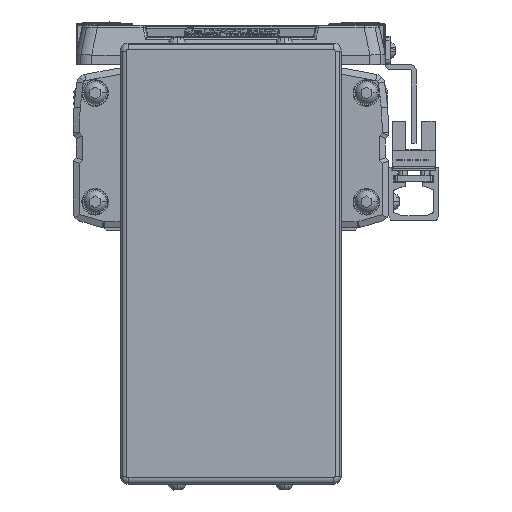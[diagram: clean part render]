
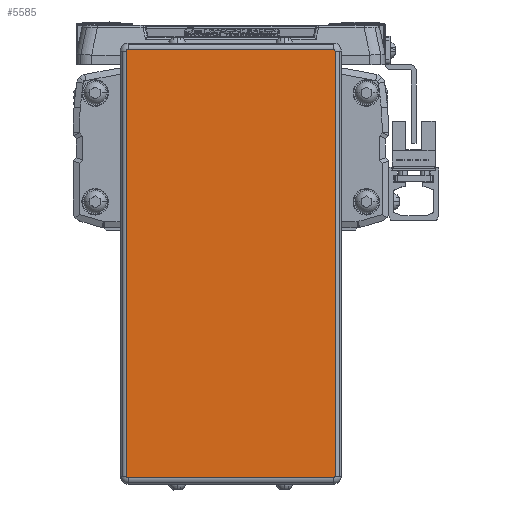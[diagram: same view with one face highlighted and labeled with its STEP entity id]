
A CAD part, left-side view. The second image highlights one B-rep face of the part: STEP entity #5585.
In plain terms, the highlighted planar face has unit normal (-1, 0, 0).
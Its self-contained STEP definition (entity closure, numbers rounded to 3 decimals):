
#5585=ADVANCED_FACE('',(#12134),#12135,.F.);
#12134=FACE_OUTER_BOUND('',#20194,.T.);
#12135=PLANE('',#20195);
#20194=EDGE_LOOP('',(#35856,#35857,#35858,#35859,#35860,#35861,#35862,#35863));
#20195=AXIS2_PLACEMENT_3D('',#35864,#35865,#35866);
#35856=ORIENTED_EDGE('',*,*,#52044,.T.);
#35857=ORIENTED_EDGE('',*,*,#47012,.T.);
#35858=ORIENTED_EDGE('',*,*,#52045,.T.);
#35859=ORIENTED_EDGE('',*,*,#52046,.T.);
#35860=ORIENTED_EDGE('',*,*,#52047,.T.);
#35861=ORIENTED_EDGE('',*,*,#51625,.T.);
#35862=ORIENTED_EDGE('',*,*,#49961,.T.);
#35863=ORIENTED_EDGE('',*,*,#49165,.T.);
#35864=CARTESIAN_POINT('',(-616.0,0.,-41.6));
#35865=DIRECTION('',(1.0,0.,0.));
#35866=DIRECTION('',(0.,0.,1.0));
#47012=EDGE_CURVE('',#56576,#56573,#56577,.T.);
#49165=EDGE_CURVE('',#60165,#60163,#60166,.T.);
#49961=EDGE_CURVE('',#61427,#60165,#61428,.T.);
#51625=EDGE_CURVE('',#63782,#61427,#63783,.T.);
#52044=EDGE_CURVE('',#60163,#56576,#64335,.T.);
#52045=EDGE_CURVE('',#56573,#64336,#64337,.T.);
#52046=EDGE_CURVE('',#64336,#64338,#64339,.T.);
#52047=EDGE_CURVE('',#64338,#63782,#64340,.T.);
#56573=VERTEX_POINT('',#69967);
#56576=VERTEX_POINT('',#69970);
#56577=CIRCLE('',#69971,0.5);
#60163=VERTEX_POINT('',#74836);
#60165=VERTEX_POINT('',#74838);
#60166=CIRCLE('',#74839,0.5);
#61427=VERTEX_POINT('',#76584);
#61428=LINE('',#76585,#76586);
#63782=VERTEX_POINT('',#79941);
#63783=CIRCLE('',#79942,0.5);
#64335=LINE('',#80693,#80694);
#64336=VERTEX_POINT('',#80695);
#64337=LINE('',#80696,#80697);
#64338=VERTEX_POINT('',#80698);
#64339=CIRCLE('',#80699,0.5);
#64340=LINE('',#80700,#80701);
#69967=CARTESIAN_POINT('',(-616.,-32.55,26.3));
#69970=CARTESIAN_POINT('',(-616.,-33.05,25.8));
#69971=AXIS2_PLACEMENT_3D('',#86050,#86051,#86052);
#74836=CARTESIAN_POINT('',(-616.0,-33.05,-109.));
#74838=CARTESIAN_POINT('',(-616.0,-32.55,-109.5));
#74839=AXIS2_PLACEMENT_3D('',#88987,#88988,#88989);
#76584=CARTESIAN_POINT('',(-616.0,32.55,-109.5));
#76585=CARTESIAN_POINT('',(-616.0,0.,-109.5));
#76586=VECTOR('',#90092,10.0);
#79941=CARTESIAN_POINT('',(-616.0,33.05,-109.));
#79942=AXIS2_PLACEMENT_3D('',#92149,#92150,#92151);
#80693=CARTESIAN_POINT('',(-616.,-33.05,-41.6));
#80694=VECTOR('',#92663,10.0);
#80695=CARTESIAN_POINT('',(-616.,32.55,26.3));
#80696=CARTESIAN_POINT('',(-616.,0.,26.3));
#80697=VECTOR('',#92664,10.0);
#80698=CARTESIAN_POINT('',(-616.,33.05,25.8));
#80699=AXIS2_PLACEMENT_3D('',#92665,#92666,#92667);
#80700=CARTESIAN_POINT('',(-616.0,33.05,-41.6));
#80701=VECTOR('',#92668,10.0);
#86050=CARTESIAN_POINT('',(-616.,-32.55,25.8));
#86051=DIRECTION('',(-1.0,0.,0.));
#86052=DIRECTION('',(0.,-0.707,0.707));
#88987=CARTESIAN_POINT('',(-616.0,-32.55,-109.));
#88988=DIRECTION('',(-1.0,0.,0.));
#88989=DIRECTION('',(0.,-0.707,-0.707));
#90092=DIRECTION('',(0.,-1.0,0.));
#92149=CARTESIAN_POINT('',(-616.0,32.55,-109.));
#92150=DIRECTION('',(-1.0,0.,0.));
#92151=DIRECTION('',(0.,0.707,-0.707));
#92663=DIRECTION('',(0.,0.,1.0));
#92664=DIRECTION('',(0.,1.0,0.));
#92665=CARTESIAN_POINT('',(-616.,32.55,25.8));
#92666=DIRECTION('',(-1.0,0.,0.));
#92667=DIRECTION('',(0.,0.707,0.707));
#92668=DIRECTION('',(0.,0.,-1.0));
